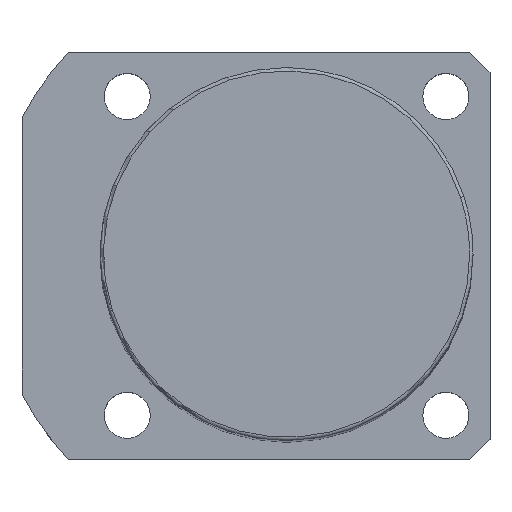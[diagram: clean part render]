
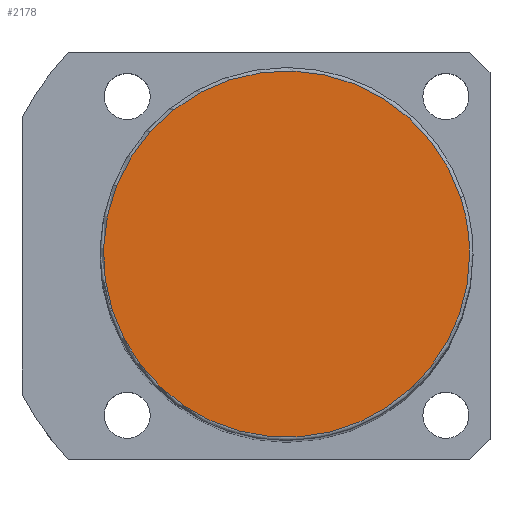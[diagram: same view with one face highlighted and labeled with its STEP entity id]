
A CAD part, top view. The second image highlights one B-rep face of the part: STEP entity #2178.
In plain terms, the highlighted planar face has unit normal (0, 0, 1).
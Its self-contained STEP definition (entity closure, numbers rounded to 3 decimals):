
#2144=CARTESIAN_POINT('',(27.0,0.0,166.0));
#2145=VERTEX_POINT('',#2144);
#2146=CARTESIAN_POINT('',(25.679,8.343,166.0));
#2147=VERTEX_POINT('',#2146);
#2148=CARTESIAN_POINT('',(0.0,0.0,166.0));
#2149=DIRECTION('',(0.0,0.0,1.0));
#2150=DIRECTION('',(1.0,0.0,0.0));
#2151=AXIS2_PLACEMENT_3D('',#2148,#2149,#2150);
#2152=CIRCLE('',#2151,27.0);
#2153=EDGE_CURVE('no 2153',#2145,#2147,#2152,.T.);
#2154=ORIENTED_EDGE('',*,*,#2153,.T.);
#2155=CARTESIAN_POINT('',(-25.679,-8.343,166.0));
#2156=VERTEX_POINT('',#2155);
#2157=CARTESIAN_POINT('',(0.0,0.0,166.0));
#2158=DIRECTION('',(0.0,0.0,1.0));
#2159=DIRECTION('',(1.0,0.0,0.0));
#2160=AXIS2_PLACEMENT_3D('',#2157,#2158,#2159);
#2161=CIRCLE('',#2160,27.0);
#2162=EDGE_CURVE('no 2159',#2147,#2156,#2161,.T.);
#2163=ORIENTED_EDGE('',*,*,#2162,.T.);
#2164=CARTESIAN_POINT('',(0.0,0.0,166.0));
#2165=DIRECTION('',(0.0,0.0,1.0));
#2166=DIRECTION('',(1.0,0.0,0.0));
#2167=AXIS2_PLACEMENT_3D('',#2164,#2165,#2166);
#2168=CIRCLE('',#2167,27.0);
#2169=EDGE_CURVE('no 2163',#2156,#2145,#2168,.T.);
#2170=ORIENTED_EDGE('',*,*,#2169,.T.);
#2171=EDGE_LOOP('',(#2154,#2163,#2170));
#2172=FACE_OUTER_BOUND('',#2171,.T.);
#2173=CARTESIAN_POINT('',(0.0,0.0,166.0));
#2174=DIRECTION('',(0.0,0.0,1.0));
#2175=DIRECTION('',(1.0,0.0,0.0));
#2176=AXIS2_PLACEMENT_3D('',#2173,#2174,#2175);
#2177=PLANE('',#2176);
#2178=ADVANCED_FACE('no 2144',(#2172),#2177,.T.);
